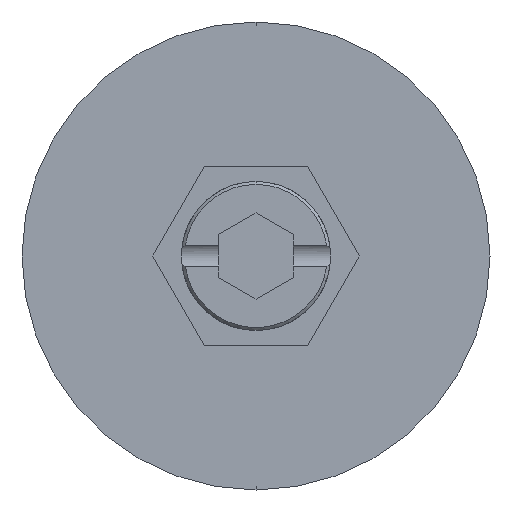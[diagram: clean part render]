
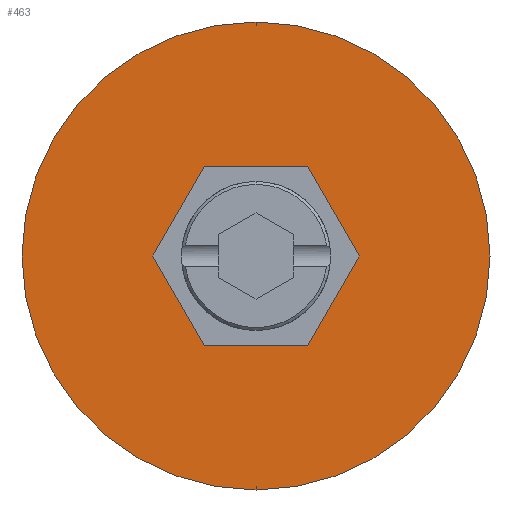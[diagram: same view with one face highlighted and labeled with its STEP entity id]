
A CAD part, front view. The second image highlights one B-rep face of the part: STEP entity #463.
In plain terms, the highlighted planar face has unit normal (0, -1, 0).
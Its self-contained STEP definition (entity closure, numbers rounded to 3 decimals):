
#1 = VECTOR ( 'NONE', #2148, 1000. ) ;
#28 = AXIS2_PLACEMENT_3D ( 'NONE', #1394, #2194, #1600 ) ;
#163 = DIRECTION ( 'NONE',  ( -0.5, 0., -0.866 ) ) ;
#203 = VECTOR ( 'NONE', #635, 1000. ) ;
#214 = CARTESIAN_POINT ( 'NONE',  ( 0., 0., -15.7 ) ) ;
#229 = DIRECTION ( 'NONE',  ( 0., 0., -1. ) ) ;
#267 = VERTEX_POINT ( 'NONE', #499 ) ;
#281 = DIRECTION ( 'NONE',  ( -0.5, 0., 0.866 ) ) ;
#298 = CIRCLE ( 'NONE', #416, 15.7 ) ;
#327 = VERTEX_POINT ( 'NONE', #1172 ) ;
#367 = VERTEX_POINT ( 'NONE', #506 ) ;
#410 = EDGE_CURVE ( 'NONE', #367, #327, #1561, .T. ) ;
#416 = AXIS2_PLACEMENT_3D ( 'NONE', #1594, #1411, #229 ) ;
#424 = VERTEX_POINT ( 'NONE', #2080 ) ;
#430 = EDGE_CURVE ( 'NONE', #1034, #869, #1998, .T. ) ;
#439 = LINE ( 'NONE', #1568, #1 ) ;
#454 = EDGE_CURVE ( 'NONE', #327, #424, #636, .T. ) ;
#456 = EDGE_CURVE ( 'NONE', #424, #267, #1914, .T. ) ;
#463 = ADVANCED_FACE ( 'NONE', ( #2045, #1307 ), #1364, .T. ) ;
#490 = CARTESIAN_POINT ( 'NONE',  ( -6.928, 0., 0. ) ) ;
#492 = DIRECTION ( 'NONE',  ( 0., -1., 0. ) ) ;
#493 = CARTESIAN_POINT ( 'NONE',  ( 3.464, 0., -6. ) ) ;
#499 = CARTESIAN_POINT ( 'NONE',  ( -3.464, 0., 6. ) ) ;
#505 = CARTESIAN_POINT ( 'NONE',  ( 3.464, 0., 6. ) ) ;
#506 = CARTESIAN_POINT ( 'NONE',  ( 3.464, 0., -6. ) ) ;
#513 = VECTOR ( 'NONE', #846, 1000. ) ;
#583 = CARTESIAN_POINT ( 'NONE',  ( -3.464, 0., -6. ) ) ;
#635 = DIRECTION ( 'NONE',  ( 0.5, 0., -0.866 ) ) ;
#636 = LINE ( 'NONE', #1850, #1442 ) ;
#643 = VECTOR ( 'NONE', #867, 1000. ) ;
#674 = CARTESIAN_POINT ( 'NONE',  ( -3.464, 0., 6. ) ) ;
#690 = EDGE_LOOP ( 'NONE', ( #794, #1586 ) ) ;
#794 = ORIENTED_EDGE ( 'NONE', *, *, #1519, .T. ) ;
#846 = DIRECTION ( 'NONE',  ( -1., 0., 0. ) ) ;
#858 = AXIS2_PLACEMENT_3D ( 'NONE', #1470, #492, #1716 ) ;
#867 = DIRECTION ( 'NONE',  ( 0.5, 0., 0.866 ) ) ;
#869 = VERTEX_POINT ( 'NONE', #583 ) ;
#893 = VERTEX_POINT ( 'NONE', #214 ) ;
#899 = VECTOR ( 'NONE', #163, 1000. ) ;
#1034 = VERTEX_POINT ( 'NONE', #490 ) ;
#1069 = ORIENTED_EDGE ( 'NONE', *, *, #454, .F. ) ;
#1172 = CARTESIAN_POINT ( 'NONE',  ( 6.928, 0., 0. ) ) ;
#1307 = FACE_OUTER_BOUND ( 'NONE', #690, .T. ) ;
#1364 = PLANE ( 'NONE',  #858 ) ;
#1394 = CARTESIAN_POINT ( 'NONE',  ( 0., 0., 0. ) ) ;
#1411 = DIRECTION ( 'NONE',  ( 0., -1., 0. ) ) ;
#1442 = VECTOR ( 'NONE', #281, 1000. ) ;
#1470 = CARTESIAN_POINT ( 'NONE',  ( 0., 0., 0. ) ) ;
#1483 = ORIENTED_EDGE ( 'NONE', *, *, #1744, .F. ) ;
#1516 = ORIENTED_EDGE ( 'NONE', *, *, #456, .F. ) ;
#1519 = EDGE_CURVE ( 'NONE', #893, #1696, #2226, .T. ) ;
#1561 = LINE ( 'NONE', #493, #643 ) ;
#1568 = CARTESIAN_POINT ( 'NONE',  ( -3.464, 0., -6. ) ) ;
#1586 = ORIENTED_EDGE ( 'NONE', *, *, #2038, .T. ) ;
#1594 = CARTESIAN_POINT ( 'NONE',  ( 0., 0., 0. ) ) ;
#1600 = DIRECTION ( 'NONE',  ( 0., 0., -1. ) ) ;
#1680 = CARTESIAN_POINT ( 'NONE',  ( 0., 0., 15.7 ) ) ;
#1682 = CARTESIAN_POINT ( 'NONE',  ( -6.928, 0., 0. ) ) ;
#1696 = VERTEX_POINT ( 'NONE', #1680 ) ;
#1703 = EDGE_CURVE ( 'NONE', #869, #367, #439, .T. ) ;
#1716 = DIRECTION ( 'NONE',  ( 0., 0., -1. ) ) ;
#1744 = EDGE_CURVE ( 'NONE', #267, #1034, #1777, .T. ) ;
#1777 = LINE ( 'NONE', #674, #899 ) ;
#1806 = ORIENTED_EDGE ( 'NONE', *, *, #1703, .F. ) ;
#1850 = CARTESIAN_POINT ( 'NONE',  ( 6.928, 0., 0. ) ) ;
#1872 = ORIENTED_EDGE ( 'NONE', *, *, #430, .F. ) ;
#1877 = EDGE_LOOP ( 'NONE', ( #1806, #1872, #1483, #1516, #1069, #2201 ) ) ;
#1914 = LINE ( 'NONE', #505, #513 ) ;
#1998 = LINE ( 'NONE', #1682, #203 ) ;
#2038 = EDGE_CURVE ( 'NONE', #1696, #893, #298, .T. ) ;
#2045 = FACE_BOUND ( 'NONE', #1877, .T. ) ;
#2080 = CARTESIAN_POINT ( 'NONE',  ( 3.464, 0., 6. ) ) ;
#2148 = DIRECTION ( 'NONE',  ( 1., 0., 0. ) ) ;
#2194 = DIRECTION ( 'NONE',  ( 0., -1., 0. ) ) ;
#2201 = ORIENTED_EDGE ( 'NONE', *, *, #410, .F. ) ;
#2226 = CIRCLE ( 'NONE', #28, 15.7 ) ;
